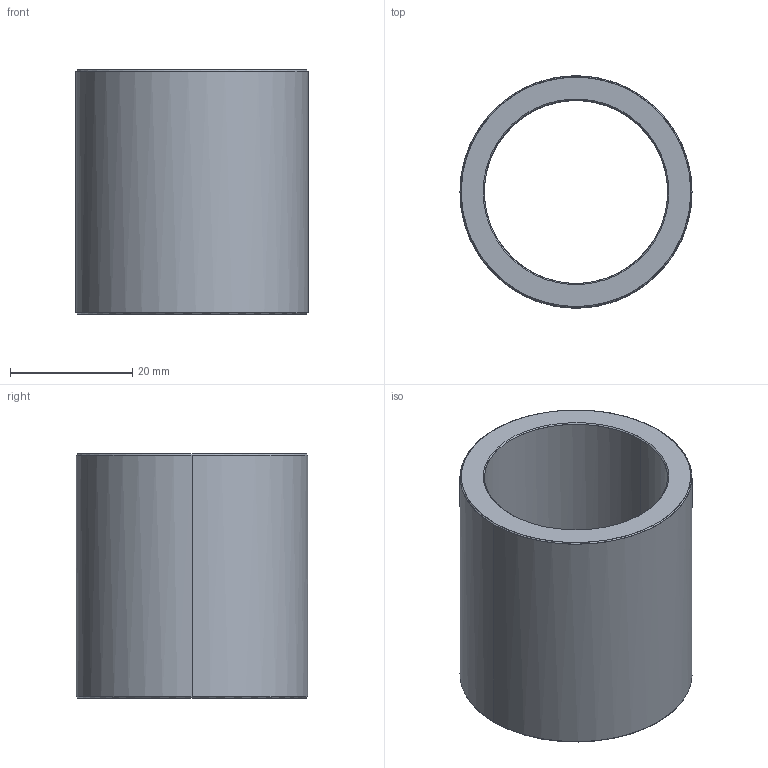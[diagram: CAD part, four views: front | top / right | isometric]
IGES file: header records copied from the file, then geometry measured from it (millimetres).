
Start section: Write IGES format                                    datakit 2008 (c)
Global section: file name: Unknown; native system: DATAKIT Converter; preprocessor: Unknown; author: Unknown; organization: Unknown; date: 950613.180003; units: millimetre
Bounding box: 38 x 37.98 x 40 mm (x, y, z)
Surface area: 9349.6 mm2 (no closed solid volume)
Topology: 0 solids, 0 shells, 14 faces, 56 edges, 56 vertices
Faces by surface type: revolution 12, bspline 2
